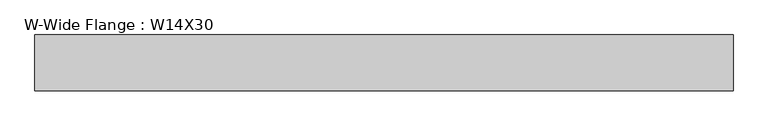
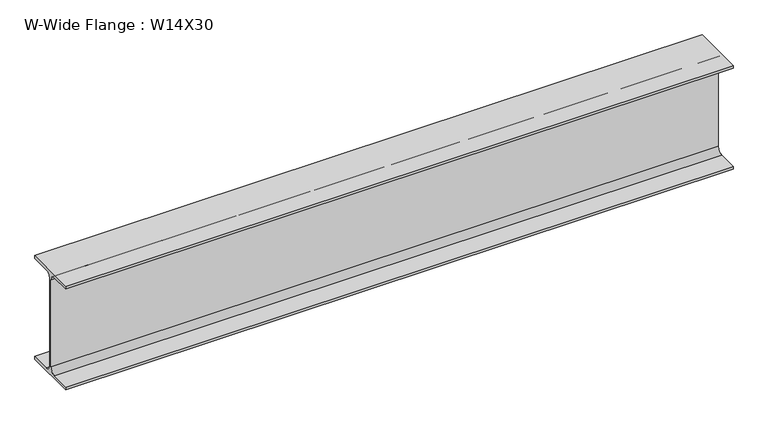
"""IFC4 building model written with IfcOpenShell, lengths in millimetres: beam geometry, W-Wide Flange : W14X30."""

from ifc_helpers import new_model, si_unit, point, frame, frame_2d, origin, place, context, project, spatial, polyline, circle_curve, trimmed, segment, composite_curve, outline, extrude, source, transform, mapped, element, save


def w_wide_flange_w14x30_eb91477c(model_context):
    return source(origin(), model_context, "Body", "SweptSolid", [
        extrude(outline(composite_curve([segment(polyline([(85.4769531, -165.9433594), (85.4769531, -175.7660156), (-85.4769531, -175.7660156), (-85.4769531, -165.9433594), (-22.1753906, -165.9433594)]), True, "CONTINUOUS"), segment(trimmed(circle_curve(frame_2d((-22.1753906, -147.1910156)), 18.7523438), [point((-22.1753906, -165.9433594))], [point((-3.4230469, -147.1910156))], True, "CARTESIAN"), True, "CONTINUOUS"), segment(polyline([(-3.4230469, -147.1910156), (-3.4230469, 147.1910156)]), True, "CONTINUOUS"), segment(trimmed(circle_curve(frame_2d((-22.1753906, 147.1910156)), 18.7523438), [point((-3.4230469, 147.1910156))], [point((-22.1753906, 165.9433594))], True, "CARTESIAN"), True, "CONTINUOUS"), segment(polyline([(-22.1753906, 165.9433594), (-85.4769531, 165.9433594), (-85.4769531, 175.7660156), (85.4769531, 175.7660156), (85.4769531, 165.9433594), (22.1753906, 165.9433594)]), True, "CONTINUOUS"), segment(trimmed(circle_curve(frame_2d((22.1753906, 147.1910156)), 18.7523438), [point((22.1753906, 165.9433594))], [point((3.4230469, 147.1910156))], True, "CARTESIAN"), True, "CONTINUOUS"), segment(polyline([(3.4230469, 147.1910156), (3.4230469, -147.1910156)]), True, "CONTINUOUS"), segment(trimmed(circle_curve(frame_2d((22.1753906, -147.1910156)), 18.7523438), [point((3.4230469, -147.1910156))], [point((22.1753906, -165.9433594))], True, "CARTESIAN"), True, "CONTINUOUS"), segment(polyline([(22.1753906, -165.9433594), (85.4769531, -165.9433594)]), True, "CONTINUOUS")], self_intersect=False)), frame((-1067.6019194, 0.0, 0.0), z_axis=(1.0, 0.0, 0.0), x_axis=(0.0, 1.0, 0.0)), (0.0, 0.0, 1.0), 2135.2038388),
    ])


if __name__ == "__main__":
    model = new_model("IFC4")
    model_context = context("Model", 3, world=origin())
    ifc_project = project(units=[si_unit("LENGTHUNIT", "METRE", prefix="MILLI")], contexts=[model_context])
    site = spatial("IfcSite", under=ifc_project)
    building = spatial("IfcBuilding", under=site)
    placement = place(None, origin())
    w_wide_flange_w14x30_shape = w_wide_flange_w14x30_eb91477c(model_context)
    element("IfcBeam", 1, ObjectType="W-Wide Flange : W14X30", at=placement, inside=building, context=model_context, shape_type="MappedRepresentation", body=[
        mapped(w_wide_flange_w14x30_shape, transform((0.0, 0.0, 0.0), x_axis=(1.0, 0.0, 0.0), y_axis=(0.0, 1.0, 0.0), z_axis=(0.0, 0.0, 1.0))),
    ])
    save(model, "model.ifc")
